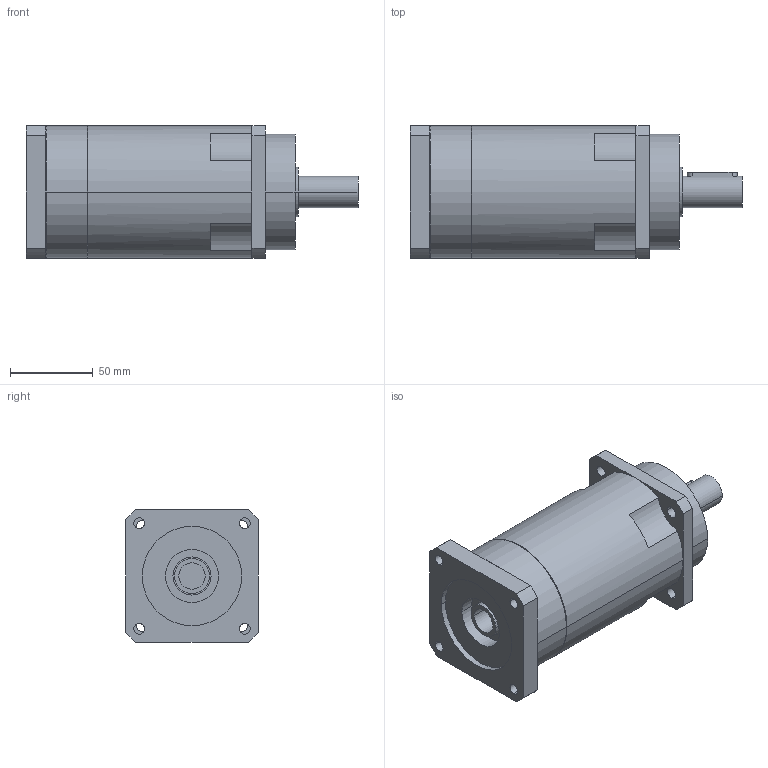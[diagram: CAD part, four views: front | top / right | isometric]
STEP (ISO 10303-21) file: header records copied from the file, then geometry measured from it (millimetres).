
FILE_DESCRIPTION(('CoCreate Modeling STEP Export'),'2;1');
FILE_NAME('GPR100_ig-48-64-80-100-120-144-180-216_19_B5_15.87_P19.stp','2014-08-26T11:55:16',(''),(''),'CoCreate Modeling STEP processor for AP214 (Solid Model)','CoCreate Modeling 16.00C 25-Feb-2009 (C) Parametric Technology GmbH','');
FILE_SCHEMA(('AUTOMOTIVE_DESIGN { 1 0 10303 214 1 1 1 1 }'));
Length unit declared in the file: millimetre
Products named in the file (2): GPR100_ig-48-64-80-100-120-144-180-216_19_B5_15.87_P19
Assembly tree (1 placements, depth 2):
  GPR100_ig-48-64-80-100-120-144-180-216_19_B5_15.87_P19
    GPR100_ig-48-64-80-100-120-144-180-216_19_B5_15.87_P19
Bounding box: 200.4 x 80 x 80 mm (x, y, z)
Volume: 798509.4 mm3; surface area: 65487.7 mm2
Topology: 1 solids, 1 shells, 101 faces, 285 edges, 195 vertices
Faces by surface type: cylinder 60, plane 35, cone 6
Entity records: 2986 total; most frequent: CARTESIAN_POINT 576, ORIENTED_EDGE 566, DIRECTION 426, EDGE_CURVE 283, VERTEX_POINT 195, AXIS2_PLACEMENT_3D 161, EDGE_LOOP 128, VECTOR 104
